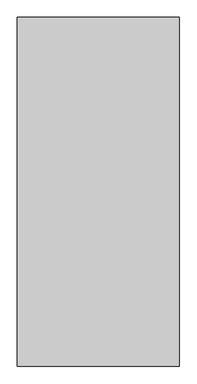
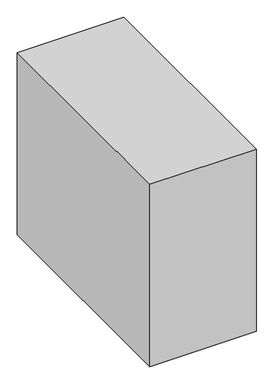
"""IFC4 building model written with IfcOpenShell, lengths in millimetres: unitary equipment geometry, AIC_Boiler_Nesta_Plus_1080-1260_FSW_r01 : Nesta plus 1080 FSW."""

from ifc_helpers import new_model, si_unit, point, frame, frame_2d, origin, origin_with_axes, place, context, project, spatial, polyline, circle_curve, trimmed, segment, composite_curve, outline, extrude, faceted_brep, source, transform, mapped, element, save
from ifc_brep_helpers import plane_surface, cylinder_surface, revolved_surface, advanced_brep


def unitary_equipment_30a898e2(model_context):
    return source(origin(), model_context, "Body", "SolidModel", [
        extrude(outline(composite_curve([segment(trimmed(circle_curve(frame_2d((100.0, 464.0)), 16.7), [point((100.0, 480.7))], [point((100.0, 447.3))], False, "CARTESIAN"), True, "CONTINUOUS"), segment(trimmed(circle_curve(frame_2d((100.0, 464.0)), 16.7), [point((100.0, 447.3))], [point((100.0, 480.7))], False, "CARTESIAN"), True, "CONTINUOUS")], self_intersect=False)), frame((0.0, 994.0, 0.0), z_axis=(0.0, 1.0, 0.0), x_axis=(0.0, 0.0, 1.0)), (0.0, 0.0, 1.0), 24.0),
        faceted_brep([(522.0, 903.0, 77.0), (522.0, 1029.0, 77.0), (522.0, 1029.0, 78.0), (522.0, 904.0, 78.0), (522.0, 904.0, 137.0), (522.0, 1029.0, 137.0), (522.0, 1029.0, 239.0), (522.0, 903.0, 307.0), (264.0, 903.0, 77.0), (264.0, 903.0, 307.0), (264.0, 1029.0, 239.0), (264.0, 1029.0, 77.0), (440.0, 1029.0, 137.0), (440.0, 1029.0, 78.0), (489.0, 904.0, 137.0), (489.0, 904.0, 78.0), (489.0, 994.0, 78.0), (489.0, 994.0, 137.0), (440.0, 994.0, 78.0), (440.0, 994.0, 137.0)], [[[0, 1, 2, 3, 4, 5, 6, 7]], [[8, 9, 10, 11]], [[1, 0, 8, 11]], [[11, 10, 6, 5, 12, 13, 2, 1]], [[7, 6, 10, 9]], [[0, 7, 9, 8]], [[14, 4, 3, 15]], [[14, 15, 16, 17]], [[15, 3, 2, 13, 18, 16]], [[4, 14, 17, 19, 12, 5]], [[19, 17, 16, 18]], [[19, 18, 13, 12]]]),
        extrude(outline(composite_curve([segment(trimmed(circle_curve(frame_2d((1526.0, 0.0)), 13.0), [point((1526.0, -13.0))], [point((1526.0, 13.0))], False, "CARTESIAN"), True, "CONTINUOUS"), segment(trimmed(circle_curve(frame_2d((1526.0, 0.0)), 13.0), [point((1526.0, 13.0))], [point((1526.0, -13.0))], False, "CARTESIAN"), True, "CONTINUOUS")], self_intersect=False)), frame((0.0, -908.2, 0.0), z_axis=(0.0, 1.0, 0.0), x_axis=(0.0, 0.0, 1.0)), (0.0, 0.0, 1.0), 6.9),
        extrude(outline(composite_curve([segment(trimmed(circle_curve(frame_2d((1587.0, -45.0)), 4.0), [point((1587.0, -49.0))], [point((1587.0, -41.0))], False, "CARTESIAN"), True, "CONTINUOUS"), segment(trimmed(circle_curve(frame_2d((1587.0, -45.0)), 4.0), [point((1587.0, -41.0))], [point((1587.0, -49.0))], False, "CARTESIAN"), True, "CONTINUOUS")], self_intersect=False)), frame((0.0, -903.3, 0.0), z_axis=(0.0, 1.0, 0.0), x_axis=(0.0, 0.0, 1.0)), (0.0, 0.0, 1.0), 2.0),
        extrude(outline(composite_curve([segment(trimmed(circle_curve(frame_2d((1587.0, 45.0)), 4.0), [point((1587.0, 41.0))], [point((1587.0, 49.0))], False, "CARTESIAN"), True, "CONTINUOUS"), segment(trimmed(circle_curve(frame_2d((1587.0, 45.0)), 4.0), [point((1587.0, 49.0))], [point((1587.0, 41.0))], False, "CARTESIAN"), True, "CONTINUOUS")], self_intersect=False)), frame((0.0, -903.3, 0.0), z_axis=(0.0, 1.0, 0.0), x_axis=(0.0, 0.0, 1.0)), (0.0, 0.0, 1.0), 2.0),
        extrude(outline(composite_curve([segment(trimmed(circle_curve(frame_2d((1552.0, 45.0)), 4.0), [point((1552.0, 41.0))], [point((1552.0, 49.0))], False, "CARTESIAN"), True, "CONTINUOUS"), segment(trimmed(circle_curve(frame_2d((1552.0, 45.0)), 4.0), [point((1552.0, 49.0))], [point((1552.0, 41.0))], False, "CARTESIAN"), True, "CONTINUOUS")], self_intersect=False)), frame((0.0, -903.3, 0.0), z_axis=(0.0, 1.0, 0.0), x_axis=(0.0, 0.0, 1.0)), (0.0, 0.0, 1.0), 2.0),
        faceted_brep([(71.0, -891.3, 1602.0), (71.0, -891.3, 1508.0), (-71.0, -891.3, 1508.0), (-71.0, -891.3, 1602.0), (71.0, -901.3, 1602.0), (-71.0, -901.3, 1602.0), (-71.0, -901.3, 1508.0), (71.0, -901.3, 1508.0), (-30.0, -901.3, 1591.0), (30.0, -901.3, 1591.0), (30.0, -901.3, 1551.0), (-30.0, -901.3, 1551.0), (30.0, -900.3, 1591.0), (-30.0, -900.3, 1591.0), (-30.0, -900.3, 1551.0), (30.0, -900.3, 1551.0)], [[[0, 1, 2, 3]], [[4, 5, 6, 7], [8, 9, 10, 11]], [[0, 3, 5, 4]], [[3, 2, 6, 5]], [[2, 1, 7, 6]], [[1, 0, 4, 7]], [[12, 13, 14, 15]], [[13, 12, 9, 8]], [[14, 13, 8, 11]], [[15, 14, 11, 10]], [[12, 15, 10, 9]]]),
        extrude(outline(composite_curve([segment(trimmed(circle_curve(frame_2d((334.0, -578.0)), 170.0), [point((164.0, -578.0))], [point((504.0, -578.0))], False, "CARTESIAN"), True, "CONTINUOUS"), segment(trimmed(circle_curve(frame_2d((334.0, -578.0)), 170.0), [point((504.0, -578.0))], [point((164.0, -578.0))], False, "CARTESIAN"), True, "CONTINUOUS")], self_intersect=False)), frame((0.0, 0.0, 2261.4), z_axis=(0.0, 0.0, 1.0), x_axis=(1.0, 0.0, 0.0)), (0.0, 0.0, 1.0), 1.0),
        advanced_brep(
        [(499.0, -413.0, 2019.4), (169.0, -413.0, 2019.4), (169.0, -743.0, 2019.4), (499.0, -743.0, 2019.4), (489.5, -578.0, 2019.4), (178.5, -578.0, 2019.4), (488.5, -578.0, 2019.4), (179.5, -578.0, 2019.4), (499.0, -413.0, 2012.4), (499.0, -743.0, 2012.4), (169.0, -743.0, 2012.4), (169.0, -413.0, 2012.4), (178.5, -578.0, 2261.4), (489.5, -578.0, 2261.4), (179.5, -578.0, 2261.4), (488.5, -578.0, 2261.4)],
        [
            (0, 1),
            (1, 2),
            (2, 3),
            (3, 0),
            (4, 5, circle_curve(frame((334.0, -578.0, 2019.4), z_axis=(0.0, 0.0, -1.0), x_axis=(1.0, 0.0, 0.0)), 155.5)),
            (5, 4, circle_curve(frame((334.0, -578.0, 2019.4), z_axis=(0.0, 0.0, -1.0), x_axis=(1.0, 0.0, 0.0)), 155.5)),
            (6, 7, circle_curve(frame((334.0, -578.0, 2019.4), z_axis=(0.0, 0.0, 1.0), x_axis=(1.0, 0.0, 0.0)), 154.5)),
            (7, 6, circle_curve(frame((334.0, -578.0, 2019.4), z_axis=(0.0, 0.0, 1.0), x_axis=(1.0, 0.0, 0.0)), 154.5)),
            (8, 9),
            (9, 10),
            (10, 11),
            (11, 8),
            (0, 8),
            (11, 1),
            (10, 2),
            (9, 3),
            (12, 13, circle_curve(frame((334.0, -578.0, 2261.4), z_axis=(0.0, 0.0, 1.0), x_axis=(1.0, 0.0, 0.0)), 155.5)),
            (13, 12, circle_curve(frame((334.0, -578.0, 2261.4), z_axis=(0.0, 0.0, 1.0), x_axis=(1.0, 0.0, 0.0)), 155.5)),
            (14, 15, circle_curve(frame((334.0, -578.0, 2261.4), z_axis=(0.0, 0.0, -1.0), x_axis=(1.0, 0.0, 0.0)), 154.5)),
            (15, 14, circle_curve(frame((334.0, -578.0, 2261.4), z_axis=(0.0, 0.0, -1.0), x_axis=(1.0, 0.0, 0.0)), 154.5)),
            (12, 5),
            (4, 13),
            (14, 7),
            (6, 15),
        ],
        [
            plane_surface(frame((169.0, -413.0, 2019.4), z_axis=(0.0, 0.0, 1.0), x_axis=(-1.0, 0.0, 0.0))),
            plane_surface(frame((169.0, -413.0, 2012.4), z_axis=(0.0, 0.0, -1.0), x_axis=(1.0, 0.0, 0.0))),
            plane_surface(frame((499.0, -413.0, 2019.4), z_axis=(0.0, 1.0, 0.0), x_axis=(0.0, 0.0, -1.0))),
            plane_surface(frame((169.0, -413.0, 2019.4), z_axis=(-1.0, 0.0, 0.0), x_axis=(0.0, 0.0, -1.0))),
            plane_surface(frame((169.0, -743.0, 2019.4), z_axis=(0.0, -1.0, 0.0), x_axis=(0.0, 0.0, -1.0))),
            plane_surface(frame((499.0, -743.0, 2019.4), z_axis=(1.0, 0.0, 0.0), x_axis=(0.0, 0.0, -1.0))),
            plane_surface(frame((489.5, -578.0, 2261.4), z_axis=(0.0, 0.0, 1.0), x_axis=(0.0, 1.0, 0.0))),
            cylinder_surface(frame((334.0, -578.0, 2019.4), z_axis=(0.0, 0.0, 1.0), x_axis=(1.0, 0.0, 0.0)), 155.5),
            revolved_surface(polyline([(488.5, -578.0, 2019.4), (488.5, -578.0, 2261.4)]), (334.0, -578.0, 2012.4), (0.0, 0.0, -1.0)),
        ],
        [
            (0, [[1, 2, 3, 4], [5, 6]]),
            (0, [[7, 8]]),
            (1, [[9, 10, 11, 12]]),
            (2, [[-1, 13, -12, 14]]),
            (3, [[-2, -14, -11, 15]]),
            (4, [[-3, -15, -10, 16]]),
            (5, [[-4, -16, -9, -13]]),
            (6, [[17, 18], [19, 20]]),
            (7, [[-17, 21, -5, 22]]),
            (7, [[-18, -22, -6, -21]]),
            (8, [[-19, 23, -7, 24]]),
            (8, [[-20, -24, -8, -23]]),
        ],
    ),
        advanced_brep(
        [(349.55, -270.0, 2056.0), (438.45, -270.0, 2056.0), (438.45, -270.0, 2025.0), (349.55, -270.0, 2025.0), (294.0, -270.0, 2056.0), (494.0, -270.0, 2056.0), (294.0, -270.0, 2074.0), (494.0, -270.0, 2074.0), (324.0, -270.0, 2074.0), (464.0, -270.0, 2074.0), (324.0, -270.0, 2076.0), (464.0, -270.0, 2076.0), (353.2, -270.0, 2076.0), (434.8, -270.0, 2076.0), (353.2, -270.0, 2025.0), (434.8, -270.0, 2025.0)],
        [
            (0, 1, circle_curve(frame((394.0, -270.0, 2056.0), z_axis=(0.0, 0.0, -1.0), x_axis=(1.0, 0.0, 0.0)), 44.45)),
            (1, 2),
            (2, 3, circle_curve(frame((394.0, -270.0, 2025.0), z_axis=(0.0, 0.0, 1.0), x_axis=(1.0, 0.0, 0.0)), 44.45)),
            (3, 0),
            (1, 0, circle_curve(frame((394.0, -270.0, 2056.0), z_axis=(0.0, 0.0, -1.0), x_axis=(1.0, 0.0, 0.0)), 44.45)),
            (3, 2, circle_curve(frame((394.0, -270.0, 2025.0), z_axis=(0.0, 0.0, 1.0), x_axis=(1.0, 0.0, 0.0)), 44.45)),
            (4, 5, circle_curve(frame((394.0, -270.0, 2056.0), z_axis=(0.0, 0.0, -1.0), x_axis=(1.0, 0.0, 0.0)), 100.0)),
            (5, 1),
            (0, 4),
            (5, 4, circle_curve(frame((394.0, -270.0, 2056.0), z_axis=(0.0, 0.0, -1.0), x_axis=(1.0, 0.0, 0.0)), 100.0)),
            (6, 7, circle_curve(frame((394.0, -270.0, 2074.0), z_axis=(0.0, 0.0, -1.0), x_axis=(1.0, 0.0, 0.0)), 100.0)),
            (7, 5),
            (4, 6),
            (7, 6, circle_curve(frame((394.0, -270.0, 2074.0), z_axis=(0.0, 0.0, -1.0), x_axis=(1.0, 0.0, 0.0)), 100.0)),
            (8, 9, circle_curve(frame((394.0, -270.0, 2074.0), z_axis=(0.0, 0.0, -1.0), x_axis=(1.0, 0.0, 0.0)), 70.0)),
            (9, 7),
            (6, 8),
            (9, 8, circle_curve(frame((394.0, -270.0, 2074.0), z_axis=(0.0, 0.0, -1.0), x_axis=(1.0, 0.0, 0.0)), 70.0)),
            (10, 11, circle_curve(frame((394.0, -270.0, 2076.0), z_axis=(0.0, 0.0, -1.0), x_axis=(1.0, 0.0, 0.0)), 70.0)),
            (11, 9),
            (8, 10),
            (11, 10, circle_curve(frame((394.0, -270.0, 2076.0), z_axis=(0.0, 0.0, -1.0), x_axis=(1.0, 0.0, 0.0)), 70.0)),
            (12, 13, circle_curve(frame((394.0, -270.0, 2076.0), z_axis=(0.0, 0.0, -1.0), x_axis=(1.0, 0.0, 0.0)), 40.8)),
            (13, 11),
            (10, 12),
            (13, 12, circle_curve(frame((394.0, -270.0, 2076.0), z_axis=(0.0, 0.0, -1.0), x_axis=(1.0, 0.0, 0.0)), 40.8)),
            (14, 15, circle_curve(frame((394.0, -270.0, 2025.0), z_axis=(0.0, 0.0, -1.0), x_axis=(1.0, 0.0, 0.0)), 40.8)),
            (15, 13),
            (12, 14),
            (15, 14, circle_curve(frame((394.0, -270.0, 2025.0), z_axis=(0.0, 0.0, -1.0), x_axis=(1.0, 0.0, 0.0)), 40.8)),
            (2, 15),
            (14, 3),
        ],
        [
            cylinder_surface(frame((394.0, -270.0, 2100.0), z_axis=(0.0, 0.0, 1.0), x_axis=(1.0, 0.0, 0.0)), 44.45),
            plane_surface(frame((394.0, -270.0, 2056.0), z_axis=(0.0, 0.0, -1.0), x_axis=(1.0, 0.0, 0.0))),
            cylinder_surface(frame((394.0, -270.0, 2100.0), z_axis=(0.0, 0.0, 1.0), x_axis=(1.0, 0.0, 0.0)), 100.0),
            plane_surface(frame((394.0, -270.0, 2074.0), z_axis=(0.0, 0.0, 1.0), x_axis=(1.0, 0.0, 0.0))),
            cylinder_surface(frame((394.0, -270.0, 2100.0), z_axis=(0.0, 0.0, 1.0), x_axis=(1.0, 0.0, 0.0)), 70.0),
            plane_surface(frame((394.0, -270.0, 2076.0), z_axis=(0.0, 0.0, 1.0), x_axis=(1.0, 0.0, 0.0))),
            revolved_surface(polyline([(434.8, -270.0, 2076.0), (434.8, -270.0, 2025.0)]), (394.0, -270.0, 2100.0), (0.0, 0.0, 1.0)),
            plane_surface(frame((394.0, -270.0, 2025.0), z_axis=(0.0, 0.0, -1.0), x_axis=(1.0, 0.0, 0.0))),
        ],
        [
            (0, [[1, 2, 3, 4]]),
            (0, [[5, -4, 6, -2]]),
            (1, [[7, 8, -1, 9]]),
            (1, [[10, -9, -5, -8]]),
            (2, [[11, 12, -7, 13]]),
            (2, [[14, -13, -10, -12]]),
            (3, [[15, 16, -11, 17]]),
            (3, [[18, -17, -14, -16]]),
            (4, [[19, 20, -15, 21]]),
            (4, [[22, -21, -18, -20]]),
            (5, [[23, 24, -19, 25]]),
            (5, [[26, -25, -22, -24]]),
            (6, [[27, 28, -23, 29]]),
            (6, [[30, -29, -26, -28]]),
            (7, [[-3, 31, -27, 32]]),
            (7, [[-6, -32, -30, -31]]),
        ],
    ),
        advanced_brep(
        [(0.0, 903.0, 1670.9), (0.0, 903.0, 1839.1), (0.0, 1156.5334708, 1839.1), (0.0, 1156.5334708, 1670.9), (0.0, 903.0, 1678.1), (0.0, 903.0, 1831.9), (0.0, 1175.0, 1678.1), (0.0, 1175.0, 1831.9), (0.0, 1175.0, 1669.9), (0.0, 1175.0, 1840.1), (0.0, 1181.0, 1669.9), (0.0, 1181.0, 1840.1), (0.0, 1181.0, 1649.15), (0.0, 1181.0, 1860.85), (0.0, 1178.0334708, 1649.15), (0.0, 1178.0334708, 1860.85), (0.0, 1178.0334708, 1612.55), (0.0, 1178.0334708, 1897.45), (0.0, 1156.5334708, 1612.55), (0.0, 1156.5334708, 1897.45)],
        [
            (0, 1, circle_curve(frame((0.0, 903.0, 1755.0), z_axis=(0.0, 1.0, 0.0), x_axis=(0.0, 0.0, 1.0)), 84.1)),
            (1, 2),
            (2, 3, circle_curve(frame((0.0, 1156.5334708, 1755.0), z_axis=(0.0, -1.0, 0.0), x_axis=(0.0, 0.0, 1.0)), 84.1)),
            (3, 0),
            (1, 0, circle_curve(frame((0.0, 903.0, 1755.0), z_axis=(0.0, 1.0, 0.0), x_axis=(0.0, 0.0, 1.0)), 84.1)),
            (3, 2, circle_curve(frame((0.0, 1156.5334708, 1755.0), z_axis=(0.0, -1.0, 0.0), x_axis=(0.0, 0.0, 1.0)), 84.1)),
            (4, 5, circle_curve(frame((0.0, 903.0, 1755.0), z_axis=(0.0, 1.0, 0.0), x_axis=(0.0, 0.0, 1.0)), 76.9)),
            (5, 1),
            (0, 4),
            (5, 4, circle_curve(frame((0.0, 903.0, 1755.0), z_axis=(0.0, 1.0, 0.0), x_axis=(0.0, 0.0, 1.0)), 76.9)),
            (6, 7, circle_curve(frame((0.0, 1175.0, 1755.0), z_axis=(0.0, 1.0, 0.0), x_axis=(0.0, 0.0, 1.0)), 76.9)),
            (7, 5),
            (4, 6),
            (7, 6, circle_curve(frame((0.0, 1175.0, 1755.0), z_axis=(0.0, 1.0, 0.0), x_axis=(0.0, 0.0, 1.0)), 76.9)),
            (8, 9, circle_curve(frame((0.0, 1175.0, 1755.0), z_axis=(0.0, 1.0, 0.0), x_axis=(0.0, 0.0, 1.0)), 85.1)),
            (9, 7),
            (6, 8),
            (9, 8, circle_curve(frame((0.0, 1175.0, 1755.0), z_axis=(0.0, 1.0, 0.0), x_axis=(0.0, 0.0, 1.0)), 85.1)),
            (10, 11, circle_curve(frame((0.0, 1181.0, 1755.0), z_axis=(0.0, 1.0, 0.0), x_axis=(0.0, 0.0, 1.0)), 85.1)),
            (11, 9),
            (8, 10),
            (11, 10, circle_curve(frame((0.0, 1181.0, 1755.0), z_axis=(0.0, 1.0, 0.0), x_axis=(0.0, 0.0, 1.0)), 85.1)),
            (12, 13, circle_curve(frame((0.0, 1181.0, 1755.0), z_axis=(0.0, 1.0, 0.0), x_axis=(0.0, 0.0, 1.0)), 105.85)),
            (13, 11),
            (10, 12),
            (13, 12, circle_curve(frame((0.0, 1181.0, 1755.0), z_axis=(0.0, 1.0, 0.0), x_axis=(0.0, 0.0, 1.0)), 105.85)),
            (14, 15, circle_curve(frame((0.0, 1178.0334708, 1755.0), z_axis=(0.0, 1.0, 0.0), x_axis=(0.0, 0.0, 1.0)), 105.85)),
            (15, 13),
            (12, 14),
            (15, 14, circle_curve(frame((0.0, 1178.0334708, 1755.0), z_axis=(0.0, 1.0, 0.0), x_axis=(0.0, 0.0, 1.0)), 105.85)),
            (16, 17, circle_curve(frame((0.0, 1178.0334708, 1755.0), z_axis=(0.0, 1.0, 0.0), x_axis=(0.0, 0.0, 1.0)), 142.45)),
            (17, 15),
            (14, 16),
            (17, 16, circle_curve(frame((0.0, 1178.0334708, 1755.0), z_axis=(0.0, 1.0, 0.0), x_axis=(0.0, 0.0, 1.0)), 142.45)),
            (18, 19, circle_curve(frame((0.0, 1156.5334708, 1755.0), z_axis=(0.0, 1.0, 0.0), x_axis=(0.0, 0.0, 1.0)), 142.45)),
            (19, 17),
            (16, 18),
            (19, 18, circle_curve(frame((0.0, 1156.5334708, 1755.0), z_axis=(0.0, 1.0, 0.0), x_axis=(0.0, 0.0, 1.0)), 142.45)),
            (2, 19),
            (18, 3),
        ],
        [
            cylinder_surface(frame((0.0, 906.5, 1755.0), z_axis=(0.0, -1.0, 0.0), x_axis=(0.0, 0.0, 1.0)), 84.1),
            plane_surface(frame((0.0, 903.0, 1755.0), z_axis=(0.0, -1.0, 0.0), x_axis=(0.0, 0.0, 1.0))),
            revolved_surface(polyline([(0.0, 903.0, 1831.9), (0.0, 1175.0, 1831.9)]), (0.0, 906.5, 1755.0), (0.0, -1.0, 0.0)),
            plane_surface(frame((0.0, 1175.0, 1755.0), z_axis=(0.0, 1.0, 0.0), x_axis=(0.0, 0.0, 1.0))),
            revolved_surface(polyline([(0.0, 1175.0, 1840.1), (0.0, 1181.0, 1840.1)]), (0.0, 906.5, 1755.0), (0.0, -1.0, 0.0)),
            plane_surface(frame((0.0, 1181.0, 1755.0), z_axis=(0.0, 1.0, 0.0), x_axis=(0.0, 0.0, 1.0))),
            cylinder_surface(frame((0.0, 906.5, 1755.0), z_axis=(0.0, -1.0, 0.0), x_axis=(0.0, 0.0, 1.0)), 105.85),
            plane_surface(frame((0.0, 1178.0334708, 1755.0), z_axis=(0.0, 1.0, 0.0), x_axis=(0.0, 0.0, 1.0))),
            cylinder_surface(frame((0.0, 906.5, 1755.0), z_axis=(0.0, -1.0, 0.0), x_axis=(0.0, 0.0, 1.0)), 142.45),
            plane_surface(frame((0.0, 1156.5334708, 1755.0), z_axis=(0.0, -1.0, 0.0), x_axis=(0.0, 0.0, 1.0))),
        ],
        [
            (0, [[1, 2, 3, 4]]),
            (0, [[5, -4, 6, -2]]),
            (1, [[7, 8, -1, 9]]),
            (1, [[10, -9, -5, -8]]),
            (2, [[11, 12, -7, 13]]),
            (2, [[14, -13, -10, -12]]),
            (3, [[15, 16, -11, 17]]),
            (3, [[18, -17, -14, -16]]),
            (4, [[19, 20, -15, 21]]),
            (4, [[22, -21, -18, -20]]),
            (5, [[23, 24, -19, 25]]),
            (5, [[26, -25, -22, -24]]),
            (6, [[27, 28, -23, 29]]),
            (6, [[30, -29, -26, -28]]),
            (7, [[31, 32, -27, 33]]),
            (7, [[34, -33, -30, -32]]),
            (8, [[35, 36, -31, 37]]),
            (8, [[38, -37, -34, -36]]),
            (9, [[-3, 39, -35, 40]]),
            (9, [[-6, -40, -38, -39]]),
        ],
    ),
        advanced_brep(
        [(0.0, 903.0, 380.9), (0.0, 903.0, 549.1), (0.0, 1156.5334708, 549.1), (0.0, 1156.5334708, 380.9), (0.0, 903.0, 388.1), (0.0, 903.0, 541.9), (0.0, 1175.0, 388.1), (0.0, 1175.0, 541.9), (0.0, 1175.0, 379.9), (0.0, 1175.0, 550.1), (0.0, 1181.0, 379.9), (0.0, 1181.0, 550.1), (0.0, 1181.0, 359.15), (0.0, 1181.0, 570.85), (0.0, 1178.0334708, 359.15), (0.0, 1178.0334708, 570.85), (0.0, 1178.0334708, 322.55), (0.0, 1178.0334708, 607.45), (0.0, 1156.5334708, 322.55), (0.0, 1156.5334708, 607.45)],
        [
            (0, 1, circle_curve(frame((0.0, 903.0, 465.0), z_axis=(0.0, 1.0, 0.0), x_axis=(0.0, 0.0, 1.0)), 84.1)),
            (1, 2),
            (2, 3, circle_curve(frame((0.0, 1156.5334708, 465.0), z_axis=(0.0, -1.0, 0.0), x_axis=(0.0, 0.0, 1.0)), 84.1)),
            (3, 0),
            (1, 0, circle_curve(frame((0.0, 903.0, 465.0), z_axis=(0.0, 1.0, 0.0), x_axis=(0.0, 0.0, 1.0)), 84.1)),
            (3, 2, circle_curve(frame((0.0, 1156.5334708, 465.0), z_axis=(0.0, -1.0, 0.0), x_axis=(0.0, 0.0, 1.0)), 84.1)),
            (4, 5, circle_curve(frame((0.0, 903.0, 465.0), z_axis=(0.0, 1.0, 0.0), x_axis=(0.0, 0.0, 1.0)), 76.9)),
            (5, 1),
            (0, 4),
            (5, 4, circle_curve(frame((0.0, 903.0, 465.0), z_axis=(0.0, 1.0, 0.0), x_axis=(0.0, 0.0, 1.0)), 76.9)),
            (6, 7, circle_curve(frame((0.0, 1175.0, 465.0), z_axis=(0.0, 1.0, 0.0), x_axis=(0.0, 0.0, 1.0)), 76.9)),
            (7, 5),
            (4, 6),
            (7, 6, circle_curve(frame((0.0, 1175.0, 465.0), z_axis=(0.0, 1.0, 0.0), x_axis=(0.0, 0.0, 1.0)), 76.9)),
            (8, 9, circle_curve(frame((0.0, 1175.0, 465.0), z_axis=(0.0, 1.0, 0.0), x_axis=(0.0, 0.0, 1.0)), 85.1)),
            (9, 7),
            (6, 8),
            (9, 8, circle_curve(frame((0.0, 1175.0, 465.0), z_axis=(0.0, 1.0, 0.0), x_axis=(0.0, 0.0, 1.0)), 85.1)),
            (10, 11, circle_curve(frame((0.0, 1181.0, 465.0), z_axis=(0.0, 1.0, 0.0), x_axis=(0.0, 0.0, 1.0)), 85.1)),
            (11, 9),
            (8, 10),
            (11, 10, circle_curve(frame((0.0, 1181.0, 465.0), z_axis=(0.0, 1.0, 0.0), x_axis=(0.0, 0.0, 1.0)), 85.1)),
            (12, 13, circle_curve(frame((0.0, 1181.0, 465.0), z_axis=(0.0, 1.0, 0.0), x_axis=(0.0, 0.0, 1.0)), 105.85)),
            (13, 11),
            (10, 12),
            (13, 12, circle_curve(frame((0.0, 1181.0, 465.0), z_axis=(0.0, 1.0, 0.0), x_axis=(0.0, 0.0, 1.0)), 105.85)),
            (14, 15, circle_curve(frame((0.0, 1178.0334708, 465.0), z_axis=(0.0, 1.0, 0.0), x_axis=(0.0, 0.0, 1.0)), 105.85)),
            (15, 13),
            (12, 14),
            (15, 14, circle_curve(frame((0.0, 1178.0334708, 465.0), z_axis=(0.0, 1.0, 0.0), x_axis=(0.0, 0.0, 1.0)), 105.85)),
            (16, 17, circle_curve(frame((0.0, 1178.0334708, 465.0), z_axis=(0.0, 1.0, 0.0), x_axis=(0.0, 0.0, 1.0)), 142.45)),
            (17, 15),
            (14, 16),
            (17, 16, circle_curve(frame((0.0, 1178.0334708, 465.0), z_axis=(0.0, 1.0, 0.0), x_axis=(0.0, 0.0, 1.0)), 142.45)),
            (18, 19, circle_curve(frame((0.0, 1156.5334708, 465.0), z_axis=(0.0, 1.0, 0.0), x_axis=(0.0, 0.0, 1.0)), 142.45)),
            (19, 17),
            (16, 18),
            (19, 18, circle_curve(frame((0.0, 1156.5334708, 465.0), z_axis=(0.0, 1.0, 0.0), x_axis=(0.0, 0.0, 1.0)), 142.45)),
            (2, 19),
            (18, 3),
        ],
        [
            cylinder_surface(frame((0.0, 906.5, 465.0), z_axis=(0.0, -1.0, 0.0), x_axis=(0.0, 0.0, 1.0)), 84.1),
            plane_surface(frame((0.0, 903.0, 465.0), z_axis=(0.0, -1.0, 0.0), x_axis=(0.0, 0.0, 1.0))),
            revolved_surface(polyline([(0.0, 903.0, 541.9), (0.0, 1175.0, 541.9)]), (0.0, 906.5, 465.0), (0.0, -1.0, 0.0)),
            plane_surface(frame((0.0, 1175.0, 465.0), z_axis=(0.0, 1.0, 0.0), x_axis=(0.0, 0.0, 1.0))),
            revolved_surface(polyline([(0.0, 1175.0, 550.1), (0.0, 1181.0, 550.1)]), (0.0, 906.5, 465.0), (0.0, -1.0, 0.0)),
            plane_surface(frame((0.0, 1181.0, 465.0), z_axis=(0.0, 1.0, 0.0), x_axis=(0.0, 0.0, 1.0))),
            cylinder_surface(frame((0.0, 906.5, 465.0), z_axis=(0.0, -1.0, 0.0), x_axis=(0.0, 0.0, 1.0)), 105.85),
            plane_surface(frame((0.0, 1178.0334708, 465.0), z_axis=(0.0, 1.0, 0.0), x_axis=(0.0, 0.0, 1.0))),
            cylinder_surface(frame((0.0, 906.5, 465.0), z_axis=(0.0, -1.0, 0.0), x_axis=(0.0, 0.0, 1.0)), 142.45),
            plane_surface(frame((0.0, 1156.5334708, 465.0), z_axis=(0.0, -1.0, 0.0), x_axis=(0.0, 0.0, 1.0))),
        ],
        [
            (0, [[1, 2, 3, 4]]),
            (0, [[5, -4, 6, -2]]),
            (1, [[7, 8, -1, 9]]),
            (1, [[10, -9, -5, -8]]),
            (2, [[11, 12, -7, 13]]),
            (2, [[14, -13, -10, -12]]),
            (3, [[15, 16, -11, 17]]),
            (3, [[18, -17, -14, -16]]),
            (4, [[19, 20, -15, 21]]),
            (4, [[22, -21, -18, -20]]),
            (5, [[23, 24, -19, 25]]),
            (5, [[26, -25, -22, -24]]),
            (6, [[27, 28, -23, 29]]),
            (6, [[30, -29, -26, -28]]),
            (7, [[31, 32, -27, 33]]),
            (7, [[34, -33, -30, -32]]),
            (8, [[35, 36, -31, 37]]),
            (8, [[38, -37, -34, -36]]),
            (9, [[-3, 39, -35, 40]]),
            (9, [[-6, -40, -38, -39]]),
        ],
    ),
        extrude(outline(polyline([(766.0, 1403.0), (766.0, -1903.0), (-766.0, -1903.0), (-766.0, 1403.0), (766.0, 1403.0)])), origin_with_axes(), (0.0, 0.0, 1.0), 2775.0),
        extrude(outline(polyline([(-480.0, -880.0), (-480.0, -944.95), (-546.0, -944.95), (-546.0, -880.0), (-480.0, -880.0)])), origin_with_axes(), (0.0, 0.0, 1.0), 3.0),
        extrude(outline(polyline([(546.0, -880.0), (546.0, -944.95), (480.0, -944.95), (480.0, -880.0), (546.0, -880.0)])), origin_with_axes(), (0.0, 0.0, 1.0), 3.0),
        extrude(outline(polyline([(-480.0, 903.0), (-546.0, 903.0), (-546.0, 976.0), (-480.0, 976.0), (-480.0, 903.0)])), origin_with_axes(), (0.0, 0.0, 1.0), 3.0),
        extrude(outline(polyline([(480.0, 976.0), (546.0, 976.0), (546.0, 903.0), (480.0, 903.0), (480.0, 976.0)])), origin_with_axes(), (0.0, 0.0, 1.0), 3.0),
        extrude(outline(composite_curve([segment(trimmed(circle_curve(frame_2d((1095.0, 520.0)), 11.5), [point((1095.0, 531.5))], [point((1095.0, 508.5))], False, "CARTESIAN"), True, "CONTINUOUS"), segment(trimmed(circle_curve(frame_2d((1095.0, 520.0)), 11.5), [point((1095.0, 508.5))], [point((1095.0, 531.5))], False, "CARTESIAN"), True, "CONTINUOUS")], self_intersect=False)), frame((0.0, 903.0, 0.0), z_axis=(0.0, 1.0, 0.0), x_axis=(0.0, 0.0, 1.0)), (0.0, 0.0, 1.0), 27.0),
        extrude(outline(composite_curve([segment(trimmed(circle_curve(frame_2d((-346.3, 1099.1)), 175.0), [point((-521.3, 1099.1))], [point((-205.376871, 1202.857755))], False, "CARTESIAN"), True, "CONTINUOUS"), segment(polyline([(-205.376871, 1202.857755), (15.4, 903.0), (-521.3, 903.0), (-521.3, 1099.1)]), True, "CONTINUOUS")], self_intersect=False)), frame((0.0, 0.0, 177.7), z_axis=(0.0, 0.0, 1.0), x_axis=(1.0, 0.0, 0.0)), (0.0, 0.0, 1.0), 140.0),
        extrude(outline(composite_curve([segment(trimmed(circle_curve(frame_2d((-346.3, 1099.1)), 152.5), [point((-498.8, 1099.1))], [point((-193.8, 1099.1))], False, "CARTESIAN"), True, "CONTINUOUS"), segment(trimmed(circle_curve(frame_2d((-346.3, 1099.1)), 152.5), [point((-193.8, 1099.1))], [point((-498.8, 1099.1))], False, "CARTESIAN"), True, "CONTINUOUS")], self_intersect=False), holes=[composite_curve([segment(trimmed(circle_curve(frame_2d((-346.3, 1099.1)), 150.0), [point((-496.3, 1099.1))], [point((-196.3, 1099.1))], True, "CARTESIAN"), True, "CONTINUOUS"), segment(trimmed(circle_curve(frame_2d((-346.3, 1099.1)), 150.0), [point((-196.3, 1099.1))], [point((-496.3, 1099.1))], True, "CARTESIAN"), True, "CONTINUOUS")], self_intersect=False)]), frame((0.0, 0.0, 317.7), z_axis=(0.0, 0.0, 1.0), x_axis=(1.0, 0.0, 0.0)), (0.0, 0.0, 1.0), 100.0),
        advanced_brep(
        [(566.0, 903.0, 2025.0), (-566.0, 903.0, 2025.0), (-566.0, -861.5, 2025.0), (566.0, -861.5, 2025.0), (503.0, -403.0, 2025.0), (503.0, -753.0, 2025.0), (165.0, -753.0, 2025.0), (165.0, -403.0, 2025.0), (-566.0, -872.0, 2025.0), (566.0, -872.0, 2025.0), (566.0, -863.0, 2025.0), (-566.0, -863.0, 2025.0), (-546.0, 903.0, 0.0), (-474.0, 903.0, 0.0), (-474.0, -880.0, 0.0), (-546.0, -880.0, 0.0), (-36.0, 903.0, 0.0), (36.0, 903.0, 0.0), (36.0, -880.0, 0.0), (-36.0, -880.0, 0.0), (474.0, 903.0, 0.0), (546.0, 903.0, 0.0), (546.0, -880.0, 0.0), (474.0, -880.0, 0.0), (566.0, 903.0, 2012.4), (549.0, 903.0, 2012.4), (549.0, 903.0, 2007.4), (566.0, 903.0, 2007.4), (566.0, 903.0, 1089.0), (554.0, 903.0, 1089.0), (554.0, 903.0, 1084.0), (566.0, 903.0, 1084.0), (566.0, 903.0, 100.0), (546.0, 903.0, 100.0), (474.0, 903.0, 100.0), (36.0, 903.0, 100.0), (-36.0, 903.0, 100.0), (-474.0, 903.0, 100.0), (-546.0, 903.0, 100.0), (-566.0, 903.0, 100.0), (-566.0, 903.0, 1084.0), (-554.0, 903.0, 1084.0), (-554.0, 903.0, 1089.0), (-566.0, 903.0, 1089.0), (-566.0, 903.0, 2007.4), (-549.0, 903.0, 2007.4), (-549.0, 903.0, 2012.4), (-566.0, 903.0, 2012.4), (-566.0, -861.5, 2012.4), (-566.0, -121.0, 100.0), (-566.0, -121.0, 1084.0), (-566.0, -121.0, 1089.0), (-566.0, -121.0, 2007.4), (-566.0, -903.0, 103.0), (-566.0, -903.0, 1084.0), (-566.0, -883.0, 1084.0), (-566.0, -883.0, 103.0), (-566.0, -903.0, 1994.0), (-566.0, -863.0, 2012.4), (-566.0, -863.0, 2007.4), (-566.0, -126.0, 2007.4), (-566.0, -126.0, 1089.0), (-566.0, -880.0, 1089.0), (-566.0, -880.0, 1984.0), (-566.0, -903.0, 1984.0), (-566.0, -903.0, 1089.0), (-566.0, -903.0, 1979.0), (-566.0, -883.0, 1979.0), (-566.0, -883.0, 1089.0), (-566.0, -880.0, 100.0), (-566.0, -880.0, 1084.0), (-566.0, -126.0, 1084.0), (-566.0, -126.0, 100.0), (-566.0, -880.0, 98.0), (-566.0, -883.0, 98.0), (-566.0, -883.0, 100.0), (566.0, -903.0, 1089.0), (566.0, -903.0, 1979.0), (-73.0, -903.0, 1605.0), (73.0, -903.0, 1605.0), (73.0, -903.0, 1505.0), (-73.0, -903.0, 1505.0), (566.0, -903.0, 1084.0), (566.0, -903.0, 103.0), (554.0, -903.0, 98.0), (-554.0, -903.0, 98.0), (-554.0, -903.0, 10.0), (554.0, -903.0, 10.0), (566.0, -903.0, 1994.0), (566.0, -903.0, 1984.0), (566.0, -861.5, 2012.4), (566.0, -121.0, 2007.4), (566.0, -121.0, 1089.0), (566.0, -121.0, 1084.0), (566.0, -121.0, 100.0), (566.0, -883.0, 1089.0), (566.0, -883.0, 1979.0), (566.0, -883.0, 103.0), (566.0, -883.0, 1084.0), (566.0, -880.0, 1984.0), (566.0, -880.0, 1089.0), (566.0, -126.0, 1089.0), (566.0, -126.0, 2007.4), (566.0, -863.0, 2007.4), (566.0, -863.0, 2012.4), (566.0, -880.0, 1084.0), (566.0, -880.0, 100.0), (566.0, -126.0, 100.0), (566.0, -126.0, 1084.0), (503.0, -753.0, 2012.4), (503.0, -403.0, 2012.4), (165.0, -403.0, 2012.4), (165.0, -753.0, 2012.4), (73.0, -891.3, 1605.0), (-73.0, -891.3, 1605.0), (-73.0, -891.3, 1505.0), (73.0, -891.3, 1505.0), (554.0, -880.0, 1089.0), (-554.0, -880.0, 1089.0), (-554.0, -880.0, 1084.0), (554.0, -880.0, 1084.0), (554.0, -121.0, 1089.0), (-554.0, -121.0, 1089.0), (-554.0, -883.0, 1089.0), (554.0, -883.0, 1089.0), (-554.0, -126.0, 1089.0), (554.0, -126.0, 1089.0), (554.0, -121.0, 1084.0), (-554.0, -121.0, 1084.0), (554.0, -883.0, 1084.0), (-554.0, -883.0, 1084.0), (-554.0, -126.0, 1084.0), (554.0, -126.0, 1084.0), (-554.0, -121.0, 100.0), (-554.0, -126.0, 100.0), (-554.0, -126.0, 2007.4), (-554.0, -121.0, 2007.4), (554.0, -121.0, 2007.4), (554.0, -126.0, 2007.4), (554.0, -126.0, 100.0), (554.0, -121.0, 100.0), (-554.0, -883.0, 98.0), (546.0, -883.0, 98.0), (546.0, -883.0, 100.0), (554.0, -883.0, 100.0), (554.0, -883.0, 103.0), (-554.0, -883.0, 103.0), (-554.0, -883.0, 100.0), (554.0, -883.0, 98.0), (-474.0, -880.0, 10.0), (-546.0, -880.0, 10.0), (36.0, -880.0, 10.0), (-36.0, -880.0, 10.0), (546.0, -880.0, 10.0), (474.0, -880.0, 10.0), (-554.0, -880.0, 98.0), (554.0, -883.0, 10.0), (-554.0, -880.0, 10.0), (546.0, -883.0, 10.0), (-546.0, -880.0, 100.0), (-554.0, -880.0, 100.0), (-36.0, -880.0, 100.0), (-474.0, -880.0, 100.0), (474.0, -880.0, 100.0), (36.0, -880.0, 100.0), (554.0, -880.0, 100.0), (-546.0, 61.0, 80.0), (-546.0, -242.0, 80.0), (-546.0, -242.0, 20.0), (-546.0, 61.0, 20.0), (-546.0, 764.0, 80.0), (-546.0, 461.0, 80.0), (-546.0, 461.0, 20.0), (-546.0, 764.0, 20.0), (-474.0, -242.0, 80.0), (-474.0, 61.0, 80.0), (-474.0, 61.0, 20.0), (-474.0, -242.0, 20.0), (-474.0, 461.0, 80.0), (-474.0, 764.0, 80.0), (-474.0, 764.0, 20.0), (-474.0, 461.0, 20.0), (-36.0, 61.0, 80.0), (-36.0, -242.0, 80.0), (-36.0, -242.0, 20.0), (-36.0, 61.0, 20.0), (-36.0, 764.0, 80.0), (-36.0, 461.0, 80.0), (-36.0, 461.0, 20.0), (-36.0, 764.0, 20.0), (36.0, -242.0, 80.0), (36.0, 61.0, 80.0), (36.0, 61.0, 20.0), (36.0, -242.0, 20.0), (36.0, 461.0, 80.0), (36.0, 764.0, 80.0), (36.0, 764.0, 20.0), (36.0, 461.0, 20.0), (474.0, 61.0, 80.0), (474.0, -242.0, 80.0), (474.0, -242.0, 20.0), (474.0, 61.0, 20.0), (474.0, 764.0, 80.0), (474.0, 461.0, 80.0), (474.0, 461.0, 20.0), (474.0, 764.0, 20.0), (546.0, -242.0, 80.0), (546.0, 61.0, 80.0), (546.0, 61.0, 20.0), (546.0, -242.0, 20.0), (546.0, 461.0, 80.0), (546.0, 764.0, 80.0), (546.0, 764.0, 20.0), (546.0, 461.0, 20.0), (554.0, -883.0, 1984.0), (-554.0, -883.0, 1984.0), (-554.0, -883.0, 1979.0), (554.0, -883.0, 1979.0), (-554.0, -880.0, 1984.0), (554.0, -880.0, 1984.0), (549.0, -861.5, 2007.4), (-549.0, -861.5, 2007.4), (-549.0, -861.5, 2012.4), (549.0, -861.5, 2012.4), (-554.0, -880.0, 100.0)],
        [
            (0, 1),
            (1, 2),
            (2, 3),
            (3, 0),
            (4, 5),
            (5, 6),
            (6, 7),
            (7, 4),
            (8, 9),
            (9, 10),
            (10, 11),
            (11, 8),
            (12, 13),
            (13, 14),
            (14, 15),
            (15, 12),
            (16, 17),
            (17, 18),
            (18, 19),
            (19, 16),
            (20, 21),
            (21, 22),
            (22, 23),
            (23, 20),
            (0, 24),
            (24, 25),
            (25, 26),
            (26, 27),
            (27, 28),
            (28, 29),
            (29, 30),
            (30, 31),
            (31, 32),
            (32, 33),
            (33, 21),
            (20, 34),
            (34, 35),
            (35, 17),
            (16, 36),
            (36, 37),
            (37, 13),
            (12, 38),
            (38, 39),
            (39, 40),
            (40, 41),
            (41, 42),
            (42, 43),
            (43, 44),
            (44, 45),
            (45, 46),
            (46, 47),
            (47, 1),
            (47, 48),
            (48, 2),
            (39, 49),
            (49, 50),
            (50, 40),
            (43, 51),
            (51, 52),
            (52, 44),
            (53, 54),
            (54, 55),
            (55, 56),
            (56, 53),
            (57, 8, circle_curve(frame((-566.0, -872.0, 1994.0), z_axis=(-1.0, 0.0, 0.0), x_axis=(0.0, 1.0, 0.0)), 31.0)),
            (11, 58),
            (58, 59),
            (59, 60),
            (60, 61),
            (61, 62),
            (62, 63),
            (63, 64),
            (64, 57),
            (65, 66),
            (66, 67),
            (67, 68),
            (68, 65),
            (69, 70),
            (70, 71),
            (71, 72),
            (72, 69),
            (73, 74),
            (74, 75),
            (75, 69),
            (69, 73),
            (65, 76),
            (76, 77),
            (77, 66),
            (78, 79),
            (79, 80),
            (80, 81),
            (81, 78),
            (82, 54),
            (53, 83),
            (83, 82),
            (84, 85),
            (85, 86),
            (86, 87),
            (87, 84),
            (88, 57),
            (64, 89),
            (89, 88),
            (3, 90),
            (90, 24),
            (27, 91),
            (91, 92),
            (92, 28),
            (31, 93),
            (93, 94),
            (94, 32),
            (76, 95),
            (95, 96),
            (96, 77),
            (83, 97),
            (97, 98),
            (98, 82),
            (9, 88, circle_curve(frame((566.0, -872.0, 1994.0), z_axis=(1.0, 0.0, 0.0), x_axis=(0.0, 1.0, 0.0)), 31.0)),
            (89, 99),
            (99, 100),
            (100, 101),
            (101, 102),
            (102, 103),
            (103, 104),
            (104, 10),
            (105, 106),
            (106, 107),
            (107, 108),
            (108, 105),
            (109, 110),
            (110, 111),
            (111, 112),
            (112, 109),
            (109, 5),
            (4, 110),
            (7, 111),
            (6, 112),
            (113, 114),
            (114, 115),
            (115, 116),
            (116, 113),
            (113, 79),
            (78, 114),
            (81, 115),
            (80, 116),
            (117, 118),
            (118, 119),
            (119, 120),
            (120, 117),
            (92, 121),
            (121, 29),
            (42, 122),
            (122, 51),
            (68, 123),
            (123, 118),
            (117, 124),
            (124, 95),
            (118, 62),
            (61, 125),
            (125, 118),
            (100, 117),
            (117, 126),
            (126, 101),
            (30, 127),
            (127, 93),
            (50, 128),
            (128, 41),
            (98, 129),
            (129, 120),
            (119, 130),
            (130, 55),
            (70, 119),
            (119, 131),
            (131, 71),
            (120, 105),
            (108, 132),
            (132, 120),
            (128, 133),
            (133, 134),
            (134, 131),
            (125, 135),
            (135, 136),
            (136, 122),
            (121, 137),
            (137, 138),
            (138, 126),
            (132, 139),
            (139, 140),
            (140, 127),
            (74, 141),
            (141, 142),
            (142, 143),
            (143, 144),
            (144, 145),
            (145, 146),
            (146, 147),
            (147, 75),
            (56, 146),
            (145, 97),
            (84, 148),
            (148, 142),
            (141, 85),
            (14, 149),
            (149, 150),
            (150, 15),
            (18, 151),
            (151, 152),
            (152, 19),
            (22, 153),
            (153, 154),
            (154, 23),
            (155, 141),
            (73, 155),
            (87, 156),
            (156, 148),
            (86, 157),
            (157, 150),
            (149, 152),
            (151, 154),
            (153, 158),
            (158, 156),
            (155, 157),
            (38, 159),
            (159, 160),
            (160, 69),
            (72, 134),
            (133, 49),
            (36, 161),
            (161, 162),
            (162, 37),
            (34, 163),
            (163, 164),
            (164, 35),
            (143, 33),
            (94, 140),
            (139, 107),
            (106, 165),
            (165, 144),
            (159, 150),
            (166, 167),
            (167, 168),
            (168, 169),
            (169, 166),
            (170, 171),
            (171, 172),
            (172, 173),
            (173, 170),
            (162, 149),
            (174, 175),
            (175, 176),
            (176, 177),
            (177, 174),
            (178, 179),
            (179, 180),
            (180, 181),
            (181, 178),
            (161, 152),
            (182, 183),
            (183, 184),
            (184, 185),
            (185, 182),
            (186, 187),
            (187, 188),
            (188, 189),
            (189, 186),
            (164, 151),
            (190, 191),
            (191, 192),
            (192, 193),
            (193, 190),
            (194, 195),
            (195, 196),
            (196, 197),
            (197, 194),
            (163, 154),
            (198, 199),
            (199, 200),
            (200, 201),
            (201, 198),
            (202, 203),
            (203, 204),
            (204, 205),
            (205, 202),
            (142, 158),
            (206, 207),
            (207, 208),
            (208, 209),
            (209, 206),
            (210, 211),
            (211, 212),
            (212, 213),
            (213, 210),
            (214, 215),
            (215, 216),
            (216, 217),
            (217, 214),
            (63, 218),
            (218, 215),
            (214, 219),
            (219, 99),
            (96, 217),
            (216, 67),
            (26, 220),
            (220, 221),
            (221, 45),
            (52, 136),
            (135, 60),
            (59, 103),
            (102, 138),
            (137, 91),
            (48, 222),
            (222, 221),
            (220, 223),
            (223, 90),
            (118, 218),
            (219, 117),
            (69, 224),
            (224, 119),
            (120, 165),
            (216, 123),
            (124, 217),
            (130, 146),
            (145, 129),
            (224, 147),
            (223, 25),
            (46, 222),
            (166, 175),
            (174, 167),
            (182, 191),
            (190, 183),
            (198, 207),
            (206, 199),
            (177, 168),
            (193, 184),
            (209, 200),
            (176, 169),
            (192, 185),
            (208, 201),
            (170, 179),
            (178, 171),
            (186, 195),
            (194, 187),
            (202, 211),
            (210, 203),
            (181, 172),
            (197, 188),
            (213, 204),
            (180, 173),
            (196, 189),
            (212, 205),
        ],
        [
            plane_surface(frame((-566.0, 903.0, 2025.0), z_axis=(0.0, 0.0, 1.0), x_axis=(-1.0, 0.0, 0.0))),
            plane_surface(frame((-566.0, 903.0, 0.0), z_axis=(0.0, 0.0, -1.0), x_axis=(1.0, 0.0, 0.0))),
            plane_surface(frame((566.0, 903.0, 2025.0), z_axis=(0.0, 1.0, 0.0), x_axis=(0.0, 0.0, -1.0))),
            plane_surface(frame((-566.0, 903.0, 2025.0), z_axis=(-1.0, 0.0, 0.0), x_axis=(0.0, 0.0, -1.0))),
            plane_surface(frame((-566.0, -903.0, 2025.0), z_axis=(0.0, -1.0, 0.0), x_axis=(0.0, 0.0, -1.0))),
            plane_surface(frame((566.0, -903.0, 2025.0), z_axis=(1.0, 0.0, 0.0), x_axis=(0.0, 0.0, -1.0))),
            plane_surface(frame((503.0, -753.0, 2012.4), z_axis=(0.0, 0.0, 1.0), x_axis=(0.0, -1.0, 0.0))),
            plane_surface(frame((503.0, -753.0, 2025.0), z_axis=(-1.0, 0.0, 0.0), x_axis=(0.0, 0.0, -1.0))),
            plane_surface(frame((503.0, -403.0, 2025.0), z_axis=(0.0, -1.0, 0.0), x_axis=(0.0, 0.0, -1.0))),
            plane_surface(frame((165.0, -403.0, 2025.0), z_axis=(1.0, 0.0, 0.0), x_axis=(0.0, 0.0, -1.0))),
            plane_surface(frame((165.0, -753.0, 2025.0), z_axis=(0.0, 1.0, 0.0), x_axis=(0.0, 0.0, -1.0))),
            plane_surface(frame((-73.0, -891.3, 1605.0), z_axis=(0.0, -1.0, 0.0), x_axis=(1.0, 0.0, 0.0))),
            plane_surface(frame((73.0, -903.0, 1605.0), z_axis=(0.0, 0.0, -1.0), x_axis=(0.0, 1.0, 0.0))),
            plane_surface(frame((-73.0, -903.0, 1605.0), z_axis=(1.0, 0.0, 0.0), x_axis=(0.0, 1.0, 0.0))),
            plane_surface(frame((-73.0, -903.0, 1505.0), z_axis=(0.0, 0.0, 1.0), x_axis=(0.0, 1.0, 0.0))),
            plane_surface(frame((73.0, -903.0, 1505.0), z_axis=(-1.0, 0.0, 0.0), x_axis=(0.0, 1.0, 0.0))),
            plane_surface(frame((-566.0, -880.0, 1089.0), z_axis=(0.0, -1.0, 0.0), x_axis=(1.0, 0.0, 0.0))),
            plane_surface(frame((566.0, -903.0, 1089.0), z_axis=(0.0, 0.0, -1.0), x_axis=(0.0, 1.0, 0.0))),
            plane_surface(frame((-566.0, -903.0, 1084.0), z_axis=(0.0, 0.0, 1.0), x_axis=(0.0, 1.0, 0.0))),
            plane_surface(frame((-554.0, -880.0, 1089.0), z_axis=(-1.0, 0.0, 0.0), x_axis=(0.0, 0.0, -1.0))),
            plane_surface(frame((554.0, 903.0, 1089.0), z_axis=(1.0, 0.0, 0.0), x_axis=(0.0, 0.0, -1.0))),
            plane_surface(frame((-566.0, -883.0, 103.0), z_axis=(0.0, -1.0, 0.0), x_axis=(1.0, 0.0, 0.0))),
            plane_surface(frame((566.0, -903.0, 103.0), z_axis=(0.0, 0.0, -1.0), x_axis=(0.0, 1.0, 0.0))),
            plane_surface(frame((-566.0, -903.0, 98.0), z_axis=(0.0, 0.0, 1.0), x_axis=(0.0, 1.0, 0.0))),
            plane_surface(frame((-566.0, -880.0, 98.0), z_axis=(0.0, -1.0, 0.0), x_axis=(1.0, 0.0, 0.0))),
            plane_surface(frame((-554.0, -903.0, 98.0), z_axis=(0.0, 0.0, -1.0), x_axis=(0.0, 1.0, 0.0))),
            plane_surface(frame((554.0, -903.0, 98.0), z_axis=(1.0, 0.0, 0.0), x_axis=(0.0, 1.0, 0.0))),
            plane_surface(frame((554.0, -903.0, 10.0), z_axis=(0.0, 0.0, -1.0), x_axis=(0.0, 1.0, 0.0))),
            plane_surface(frame((-554.0, -903.0, 10.0), z_axis=(-1.0, 0.0, 0.0), x_axis=(0.0, 1.0, 0.0))),
            plane_surface(frame((-546.0, -880.0, 100.0), z_axis=(0.0, 0.0, -1.0), x_axis=(1.0, 0.0, 0.0))),
            plane_surface(frame((-566.0, -880.0, 100.0), z_axis=(0.0, 1.0, 0.0), x_axis=(0.0, 0.0, -1.0))),
            plane_surface(frame((-546.0, -880.0, 100.0), z_axis=(-1.0, 0.0, 0.0), x_axis=(0.0, 0.0, -1.0))),
            plane_surface(frame((-474.0, 903.0, 100.0), z_axis=(1.0, 0.0, 0.0), x_axis=(0.0, 0.0, -1.0))),
            plane_surface(frame((-474.0, -880.0, 100.0), z_axis=(0.0, 1.0, 0.0), x_axis=(0.0, 0.0, -1.0))),
            plane_surface(frame((-36.0, -880.0, 100.0), z_axis=(-1.0, 0.0, 0.0), x_axis=(0.0, 0.0, -1.0))),
            plane_surface(frame((36.0, 903.0, 100.0), z_axis=(1.0, 0.0, 0.0), x_axis=(0.0, 0.0, -1.0))),
            plane_surface(frame((36.0, -880.0, 100.0), z_axis=(0.0, 1.0, 0.0), x_axis=(0.0, 0.0, -1.0))),
            plane_surface(frame((474.0, -880.0, 100.0), z_axis=(-1.0, 0.0, 0.0), x_axis=(0.0, 0.0, -1.0))),
            plane_surface(frame((546.0, 903.0, 100.0), z_axis=(1.0, 0.0, 0.0), x_axis=(0.0, 0.0, -1.0))),
            plane_surface(frame((546.0, -883.0, 100.0), z_axis=(0.0, 1.0, 0.0), x_axis=(0.0, 0.0, -1.0))),
            cylinder_surface(frame((-566.0, -872.0, 1994.0), z_axis=(-1.0, 0.0, 0.0), x_axis=(0.0, 1.0, 0.0)), 31.0),
            plane_surface(frame((-566.0, -883.0, 1984.0), z_axis=(0.0, -1.0, 0.0), x_axis=(1.0, 0.0, 0.0))),
            plane_surface(frame((566.0, -903.0, 1984.0), z_axis=(0.0, 0.0, -1.0), x_axis=(0.0, 1.0, 0.0))),
            plane_surface(frame((-566.0, -903.0, 1979.0), z_axis=(0.0, 0.0, 1.0), x_axis=(0.0, 1.0, 0.0))),
            plane_surface(frame((-566.0, -861.5, 2007.4), z_axis=(0.0, 0.0, 1.0), x_axis=(1.0, 0.0, 0.0))),
            plane_surface(frame((566.0, -861.5, 2025.0), z_axis=(0.0, -1.0, 0.0), x_axis=(0.0, 0.0, -1.0))),
            plane_surface(frame((-566.0, -863.0, 2025.0), z_axis=(0.0, 1.0, 0.0), x_axis=(0.0, 0.0, -1.0))),
            plane_surface(frame((-554.0, -880.0, 100.0), z_axis=(0.0, -1.0, 0.0), x_axis=(0.0, 0.0, -1.0))),
            plane_surface(frame((-554.0, -883.0, 100.0), z_axis=(0.0, 1.0, 0.0), x_axis=(0.0, 0.0, 1.0))),
            plane_surface(frame((-554.0, -883.0, 100.0), z_axis=(-1.0, 0.0, 0.0), x_axis=(0.0, 1.0, 0.0))),
            plane_surface(frame((-566.0, -883.0, 100.0), z_axis=(0.0, 0.0, 1.0), x_axis=(0.0, 1.0, 0.0))),
            plane_surface(frame((554.0, -883.0, 1984.0), z_axis=(1.0, 0.0, 0.0), x_axis=(0.0, 1.0, 0.0))),
            plane_surface(frame((549.0, 903.0, 2012.4), z_axis=(0.0, 0.0, -1.0), x_axis=(-1.0, 0.0, 0.0))),
            plane_surface(frame((549.0, 903.0, 2012.4), z_axis=(1.0, 0.0, 0.0), x_axis=(0.0, 0.0, -1.0))),
            plane_surface(frame((-549.0, -863.0, 2012.4), z_axis=(-1.0, 0.0, 0.0), x_axis=(0.0, 0.0, -1.0))),
            plane_surface(frame((566.0, -121.0, 2007.4), z_axis=(0.0, -1.0, 0.0), x_axis=(0.0, 0.0, -1.0))),
            plane_surface(frame((554.0, -126.0, 2007.4), z_axis=(0.0, 1.0, 0.0), x_axis=(0.0, 0.0, -1.0))),
            plane_surface(frame((-554.0, -121.0, 2007.4), z_axis=(0.0, -1.0, 0.0), x_axis=(0.0, 0.0, -1.0))),
            plane_surface(frame((-566.0, -126.0, 2007.4), z_axis=(0.0, 1.0, 0.0), x_axis=(0.0, 0.0, -1.0))),
            plane_surface(frame((566.0, 61.0, 80.0), z_axis=(0.0, 0.0, -1.0), x_axis=(-1.0, 0.0, 0.0))),
            plane_surface(frame((566.0, -242.0, 80.0), z_axis=(0.0, 1.0, 0.0), x_axis=(-1.0, 0.0, 0.0))),
            plane_surface(frame((566.0, -242.0, 20.0), z_axis=(0.0, 0.0, 1.0), x_axis=(-1.0, 0.0, 0.0))),
            plane_surface(frame((566.0, 61.0, 20.0), z_axis=(0.0, -1.0, 0.0), x_axis=(-1.0, 0.0, 0.0))),
            plane_surface(frame((566.0, 764.0, 80.0), z_axis=(0.0, 0.0, -1.0), x_axis=(-1.0, 0.0, 0.0))),
            plane_surface(frame((566.0, 461.0, 80.0), z_axis=(0.0, 1.0, 0.0), x_axis=(-1.0, 0.0, 0.0))),
            plane_surface(frame((566.0, 461.0, 20.0), z_axis=(0.0, 0.0, 1.0), x_axis=(-1.0, 0.0, 0.0))),
            plane_surface(frame((566.0, 764.0, 20.0), z_axis=(0.0, -1.0, 0.0), x_axis=(-1.0, 0.0, 0.0))),
        ],
        [
            (0, [[1, 2, 3, 4], [5, 6, 7, 8]]),
            (0, [[9, 10, 11, 12]]),
            (1, [[13, 14, 15, 16]]),
            (1, [[17, 18, 19, 20]]),
            (1, [[21, 22, 23, 24]]),
            (2, [[-1, 25, 26, 27, 28, 29, 30, 31, 32, 33, 34, 35, -21, 36, 37, 38, -17, 39, 40, 41, -13, 42, 43, 44, 45, 46, 47, 48, 49, 50, 51, 52]]),
            (3, [[-2, -52, 53, 54]]),
            (3, [[-44, 55, 56, 57]]),
            (3, [[-48, 58, 59, 60]]),
            (3, [[61, 62, 63, 64]]),
            (3, [[65, -12, 66, 67, 68, 69, 70, 71, 72, 73]]),
            (3, [[74, 75, 76, 77]]),
            (3, [[78, 79, 80, 81]]),
            (3, [[82, 83, 84, 85]]),
            (4, [[86, 87, 88, -74], [89, 90, 91, 92]]),
            (4, [[93, -61, 94, 95]]),
            (4, [[96, 97, 98, 99]]),
            (4, [[100, -73, 101, 102]]),
            (5, [[-4, 103, 104, -25]]),
            (5, [[-29, 105, 106, 107]]),
            (5, [[-33, 108, 109, 110]]),
            (5, [[-87, 111, 112, 113]]),
            (5, [[-95, 114, 115, 116]]),
            (5, [[117, -102, 118, 119, 120, 121, 122, 123, 124, -10]]),
            (5, [[125, 126, 127, 128]]),
            (6, [[129, 130, 131, 132]]),
            (7, [[-129, 133, -5, 134]]),
            (8, [[-130, -134, -8, 135]]),
            (9, [[-131, -135, -7, 136]]),
            (10, [[-132, -136, -6, -133]]),
            (11, [[137, 138, 139, 140]]),
            (12, [[-137, 141, -89, 142]]),
            (13, [[-138, -142, -92, 143]]),
            (14, [[-139, -143, -91, 144]]),
            (15, [[-140, -144, -90, -141]]),
            (16, [[145, 146, 147, 148]]),
            (17, [[-30, -107, 149, 150]]),
            (17, [[-47, 151, 152, -58]]),
            (17, [[-86, -77, 153, 154, -145, 155, 156, -111]]),
            (17, [[157, -70, 158, 159]]),
            (17, [[160, 161, 162, -120]]),
            (18, [[-32, 163, 164, -108]]),
            (18, [[-45, -57, 165, 166]]),
            (18, [[-93, -116, 167, 168, -147, 169, 170, -62]]),
            (18, [[171, 172, 173, -79]]),
            (18, [[174, -128, 175, 176]]),
            (19, [[-46, -166, 177, 178, 179, -172, -146, -159, 180, 181, 182, -151]]),
            (20, [[-31, -150, 183, 184, 185, -161, -148, -176, 186, 187, 188, -163]]),
            (21, [[189, 190, 191, 192, 193, 194, 195, 196, -83]]),
            (22, [[-64, 197, -194, 198, -114, -94]]),
            (23, [[-96, 199, 200, -190, 201]]),
            (24, [[-15, 202, 203, 204]]),
            (24, [[-19, 205, 206, 207]]),
            (24, [[-23, 208, 209, 210]]),
            (25, [[211, -189, -82, 212]]),
            (26, [[-99, 213, 214, -199]]),
            (27, [[215, 216, -203, 217, -206, 218, -209, 219, 220, -213, -98]]),
            (28, [[-215, -97, -201, -211, 221]]),
            (29, [[222, 223, 224, -81, 225, -178, 226, -55, -43]]),
            (29, [[227, 228, 229, -40]]),
            (29, [[230, 231, 232, -37]]),
            (29, [[233, -34, -110, 234, -187, 235, -126, 236, 237, -192]]),
            (30, [[238, -216, -221, -212, -85, -224, -223]]),
            (31, [[-222, -42, -16, -204, -238], [239, 240, 241, 242], [243, 244, 245, 246]]),
            (32, [[-229, 247, -202, -14, -41], [248, 249, 250, 251], [252, 253, 254, 255]]),
            (33, [[-228, 256, -217, -247]]),
            (34, [[-227, -39, -20, -207, -256], [257, 258, 259, 260], [261, 262, 263, 264]]),
            (35, [[-232, 265, -205, -18, -38], [266, 267, 268, 269], [270, 271, 272, 273]]),
            (36, [[-231, 274, -218, -265]]),
            (37, [[-230, -36, -24, -210, -274], [275, 276, 277, 278], [279, 280, 281, 282]]),
            (38, [[-233, -191, 283, -219, -208, -22, -35], [284, 285, 286, 287], [288, 289, 290, 291]]),
            (39, [[-283, -200, -214, -220]]),
            (40, [[-9, -65, -100, -117]]),
            (41, [[292, 293, 294, 295]]),
            (42, [[-101, -72, 296, 297, -292, 298, 299, -118]]),
            (43, [[-75, -88, -113, 300, -294, 301]]),
            (44, [[302, 303, 304, -49, -60, 305, -181, 306, -68, 307, -122, 308, -184, 309, -105, -28]]),
            (45, [[-3, -54, 310, 311, -303, 312, 313, -103]]),
            (46, [[-11, -124, -123, -307, -67, -66]]),
            (47, [[-296, -71, -157, 314]]),
            (47, [[-299, 315, -160, -119]]),
            (47, [[316, 317, -171, -78]]),
            (47, [[318, -236, -125, -174]]),
            (48, [[319, -153, -76, -301]]),
            (48, [[320, -300, -112, -156]]),
            (48, [[321, -197, -63, -170]]),
            (48, [[322, -167, -115, -198]]),
            (49, [[-297, -314, -154, -319, -293]]),
            (49, [[323, -195, -321, -169, -317]]),
            (50, [[-316, -84, -196, -323]]),
            (51, [[-298, -295, -320, -155, -315]]),
            (51, [[-318, -168, -322, -193, -237]]),
            (52, [[324, -26, -104, -313]]),
            (52, [[325, -310, -53, -51]]),
            (53, [[-302, -27, -324, -312]]),
            (54, [[-304, -311, -325, -50]]),
            (55, [[-183, -149, -106, -309]]),
            (55, [[-188, -234, -109, -164]]),
            (56, [[-185, -308, -121, -162]]),
            (56, [[-186, -175, -127, -235]]),
            (57, [[-177, -165, -56, -226]]),
            (57, [[-182, -305, -59, -152]]),
            (58, [[-179, -225, -80, -173]]),
            (58, [[-180, -158, -69, -306]]),
            (59, [[326, -248, 327, -239]]),
            (59, [[328, -266, 329, -257]]),
            (59, [[330, -284, 331, -275]]),
            (60, [[-327, -251, 332, -240]]),
            (60, [[-329, -269, 333, -258]]),
            (60, [[-331, -287, 334, -276]]),
            (61, [[-332, -250, 335, -241]]),
            (61, [[-333, -268, 336, -259]]),
            (61, [[-334, -286, 337, -277]]),
            (62, [[-326, -242, -335, -249]]),
            (62, [[-328, -260, -336, -267]]),
            (62, [[-330, -278, -337, -285]]),
            (63, [[338, -252, 339, -243]]),
            (63, [[340, -270, 341, -261]]),
            (63, [[342, -288, 343, -279]]),
            (64, [[-339, -255, 344, -244]]),
            (64, [[-341, -273, 345, -262]]),
            (64, [[-343, -291, 346, -280]]),
            (65, [[-344, -254, 347, -245]]),
            (65, [[-345, -272, 348, -263]]),
            (65, [[-346, -290, 349, -281]]),
            (66, [[-338, -246, -347, -253]]),
            (66, [[-340, -264, -348, -271]]),
            (66, [[-342, -282, -349, -289]]),
        ],
    ),
    ])


if __name__ == "__main__":
    model = new_model("IFC4")
    model_context = context("Model", 3, world=origin())
    ifc_project = project(units=[si_unit("LENGTHUNIT", "METRE", prefix="MILLI")], contexts=[model_context])
    site = spatial("IfcSite", under=ifc_project)
    building = spatial("IfcBuilding", under=site)
    placement = place(None, origin())
    unitary_equipment_shape = unitary_equipment_30a898e2(model_context)
    element("IfcUnitaryEquipment", 1, ObjectType="AIC_Boiler_Nesta_Plus_1080-1260_FSW_r01 : Nesta plus 1080 FSW", at=placement, inside=building, context=model_context, shape_type="MappedRepresentation", body=[
        mapped(unitary_equipment_shape, transform((0.0, 0.0, 0.0), x_axis=(1.0, 0.0, 0.0), y_axis=(0.0, 1.0, 0.0), z_axis=(0.0, 0.0, 1.0))),
    ])
    save(model, "model.ifc")
